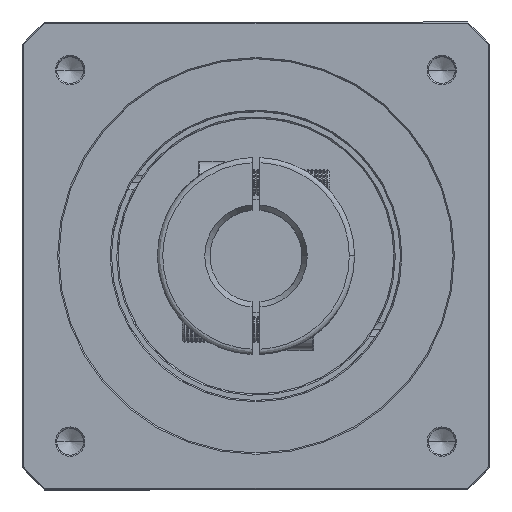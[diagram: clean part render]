
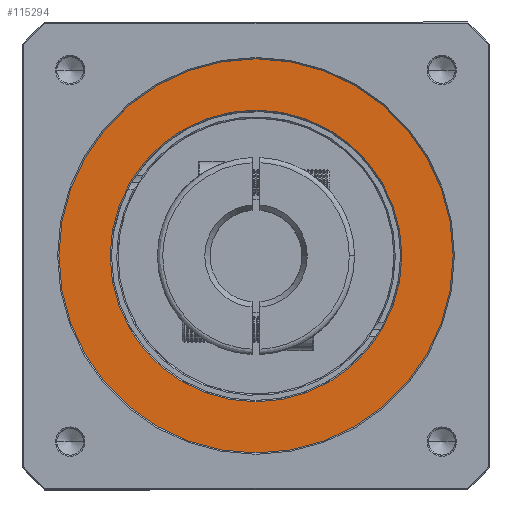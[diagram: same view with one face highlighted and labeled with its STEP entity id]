
A CAD part, top view. The second image highlights one B-rep face of the part: STEP entity #115294.
In plain terms, the highlighted planar face has unit normal (0, 0, 1).
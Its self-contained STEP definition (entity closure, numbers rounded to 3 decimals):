
#1316 = ORIENTED_EDGE ( 'NONE', *, *, #15575, .T. ) ;
#6849 = DIRECTION ( 'NONE',  ( 0., 0., 1. ) ) ;
#15575 = EDGE_CURVE ( 'NONE', #64262, #42063, #110211, .T. ) ;
#15622 = DIRECTION ( 'NONE',  ( 1., 0., 0. ) ) ;
#15955 = VERTEX_POINT ( 'NONE', #37071 ) ;
#20082 = CARTESIAN_POINT ( 'NONE',  ( -90.401, 91.584, 33.108 ) ) ;
#20579 = FACE_BOUND ( 'NONE', #57079, .T. ) ;
#23628 = EDGE_CURVE ( 'NONE', #42063, #64262, #110913, .T. ) ;
#28546 = FACE_OUTER_BOUND ( 'NONE', #105343, .T. ) ;
#29384 = DIRECTION ( 'NONE',  ( 0., 0., 1. ) ) ;
#32580 = DIRECTION ( 'NONE',  ( 0., 0., -1. ) ) ;
#37071 = CARTESIAN_POINT ( 'NONE',  ( -145.901, 91.584, 33.108 ) ) ;
#37246 = EDGE_CURVE ( 'NONE', #15955, #56946, #50956, .T. ) ;
#40502 = DIRECTION ( 'NONE',  ( 1., 0., 0. ) ) ;
#41997 = DIRECTION ( 'NONE',  ( 0., 0., -1. ) ) ;
#42063 = VERTEX_POINT ( 'NONE', #42870 ) ;
#42805 = CARTESIAN_POINT ( 'NONE',  ( -90.401, 91.584, 33.108 ) ) ;
#42870 = CARTESIAN_POINT ( 'NONE',  ( -15.401, 91.584, 33.108 ) ) ;
#45501 = PLANE ( 'NONE',  #60654 ) ;
#45773 = ORIENTED_EDGE ( 'NONE', *, *, #23628, .T. ) ;
#45951 = DIRECTION ( 'NONE',  ( 0., 0., 1. ) ) ;
#48687 = CARTESIAN_POINT ( 'NONE',  ( -90.401, 91.584, 33.108 ) ) ;
#50956 = CIRCLE ( 'NONE', #112872, 55.5 ) ;
#51094 = CARTESIAN_POINT ( 'NONE',  ( -90.401, 91.584, 33.108 ) ) ;
#56946 = VERTEX_POINT ( 'NONE', #96954 ) ;
#57079 = EDGE_LOOP ( 'NONE', ( #110552, #130338 ) ) ;
#60654 = AXIS2_PLACEMENT_3D ( 'NONE', #86911, #45951, #15622 ) ;
#64262 = VERTEX_POINT ( 'NONE', #86764 ) ;
#83560 = AXIS2_PLACEMENT_3D ( 'NONE', #51094, #29384, #40502 ) ;
#86656 = CIRCLE ( 'NONE', #88951, 55.5 ) ;
#86764 = CARTESIAN_POINT ( 'NONE',  ( -165.401, 91.584, 33.108 ) ) ;
#86911 = CARTESIAN_POINT ( 'NONE',  ( -90.401, 91.584, 33.108 ) ) ;
#88951 = AXIS2_PLACEMENT_3D ( 'NONE', #20082, #32580, #125139 ) ;
#96954 = CARTESIAN_POINT ( 'NONE',  ( -34.901, 91.584, 33.108 ) ) ;
#98582 = DIRECTION ( 'NONE',  ( 1., 0., 0. ) ) ;
#104257 = DIRECTION ( 'NONE',  ( 1., 0., 0. ) ) ;
#105343 = EDGE_LOOP ( 'NONE', ( #45773, #1316 ) ) ;
#110211 = CIRCLE ( 'NONE', #126653, 75. ) ;
#110552 = ORIENTED_EDGE ( 'NONE', *, *, #125068, .T. ) ;
#110913 = CIRCLE ( 'NONE', #83560, 75. ) ;
#112872 = AXIS2_PLACEMENT_3D ( 'NONE', #42805, #41997, #104257 ) ;
#115294 = ADVANCED_FACE ( 'NONE', ( #20579, #28546 ), #45501, .T. ) ;
#125068 = EDGE_CURVE ( 'NONE', #56946, #15955, #86656, .T. ) ;
#125139 = DIRECTION ( 'NONE',  ( 1., 0., 0. ) ) ;
#126653 = AXIS2_PLACEMENT_3D ( 'NONE', #48687, #6849, #98582 ) ;
#130338 = ORIENTED_EDGE ( 'NONE', *, *, #37246, .T. ) ;
